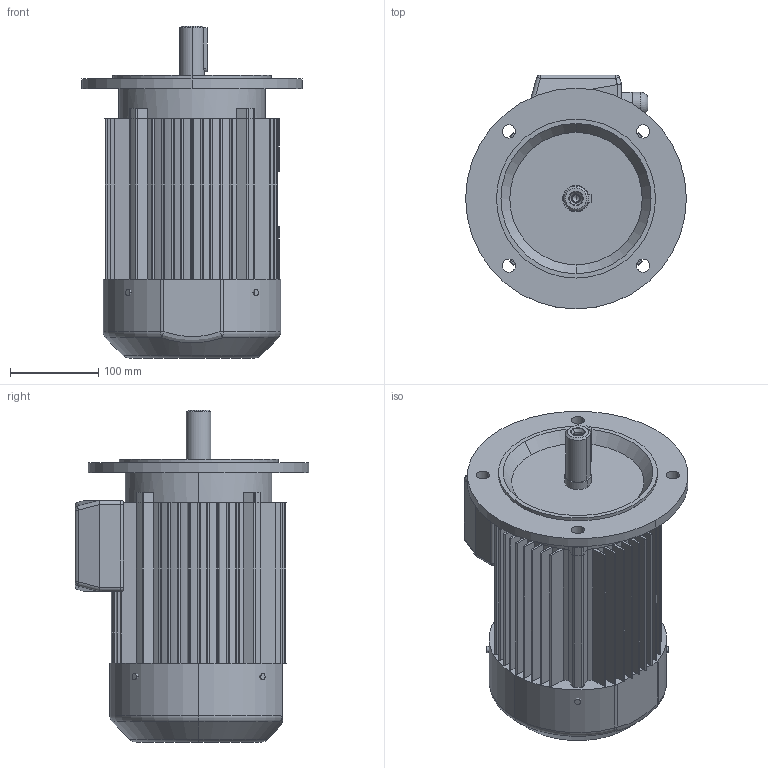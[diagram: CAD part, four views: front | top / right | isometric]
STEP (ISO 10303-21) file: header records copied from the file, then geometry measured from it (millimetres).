
FILE_DESCRIPTION (( 'STEP AP203' ), '1' );
FILE_NAME ('SKg 100L-B5.STEP', '2009-11-30T13:36:14', ( 'INDUKTA' ), ( 'CANTONI MOTOR' ), 'SwSTEP 2.0', 'SolidWorks 2003064', '' );
FILE_SCHEMA (( 'CONFIG_CONTROL_DESIGN' ));
Length unit declared in the file: millimetre
Products named in the file (1): SKg 100L-B5
Bounding box: 250 x 265 x 376 mm (x, y, z)
Volume: 8738932.1 mm3; surface area: 638361.8 mm2
Topology: 11 solids, 11 shells, 498 faces, 1339 edges, 869 vertices
Faces by surface type: plane 240, cylinder 184, bspline 43, cone 14, torus 11, sphere 6
Entity records: 18964 total; most frequent: CARTESIAN_POINT 6489, ORIENTED_EDGE 2662, DIRECTION 2508, EDGE_CURVE 1331, VERTEX_POINT 869, AXIS2_PLACEMENT_3D 842, LINE 824, VECTOR 824
